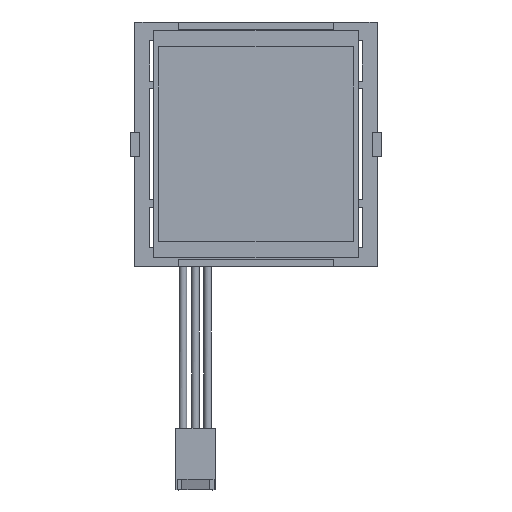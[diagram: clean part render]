
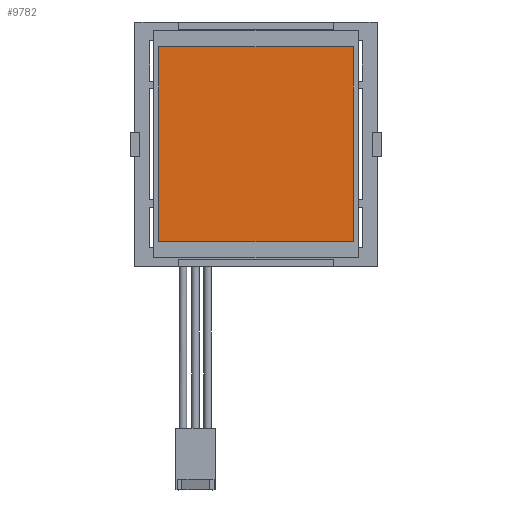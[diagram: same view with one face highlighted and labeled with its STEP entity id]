
A CAD part, front view. The second image highlights one B-rep face of the part: STEP entity #9782.
In plain terms, the highlighted planar face has unit normal (0, -1, 0).
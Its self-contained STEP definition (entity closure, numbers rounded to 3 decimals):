
#835 = CARTESIAN_POINT ( 'NONE',  ( -20., -0.127, -20. ) ) ;
#836 = CARTESIAN_POINT ( 'NONE',  ( -20., -0.127, -20. ) ) ;
#1374 = DIRECTION ( 'NONE',  ( 0., 0., -1. ) ) ;
#2063 = VERTEX_POINT ( 'NONE', #5641 ) ;
#3113 = VERTEX_POINT ( 'NONE', #21634 ) ;
#3775 = VERTEX_POINT ( 'NONE', #835 ) ;
#4136 = EDGE_CURVE ( 'NONE', #2063, #43015, #17223, .T. ) ;
#4886 = CARTESIAN_POINT ( 'NONE',  ( -20., -0.127, 20. ) ) ;
#5534 = CARTESIAN_POINT ( 'NONE',  ( -20., -0.127, 20. ) ) ;
#5641 = CARTESIAN_POINT ( 'NONE',  ( -20., -0.127, 20. ) ) ;
#9782 = ADVANCED_FACE ( 'NONE', ( #23736 ), #39285, .F. ) ;
#11076 = CARTESIAN_POINT ( 'NONE',  ( 20., -0.127, 20. ) ) ;
#11716 = EDGE_CURVE ( 'NONE', #3775, #2063, #45019, .T. ) ;
#12454 = LINE ( 'NONE', #836, #28187 ) ;
#13673 = EDGE_CURVE ( 'NONE', #43015, #3113, #17864, .T. ) ;
#14006 = CARTESIAN_POINT ( 'NONE',  ( 20., -0.127, -20. ) ) ;
#15802 = ORIENTED_EDGE ( 'NONE', *, *, #4136, .F. ) ;
#17223 = LINE ( 'NONE', #5534, #27146 ) ;
#17713 = DIRECTION ( 'NONE',  ( 0., 0., 1. ) ) ;
#17864 = LINE ( 'NONE', #14006, #39231 ) ;
#20856 = ORIENTED_EDGE ( 'NONE', *, *, #13673, .F. ) ;
#21313 = CARTESIAN_POINT ( 'NONE',  ( -20., -0.127, -20. ) ) ;
#21634 = CARTESIAN_POINT ( 'NONE',  ( 20., -0.127, -20. ) ) ;
#23507 = DIRECTION ( 'NONE',  ( 0., 1., 0. ) ) ;
#23736 = FACE_OUTER_BOUND ( 'NONE', #33525, .T. ) ;
#24235 = DIRECTION ( 'NONE',  ( 0., 0., 1. ) ) ;
#25659 = DIRECTION ( 'NONE',  ( 1., 0., 0. ) ) ;
#27146 = VECTOR ( 'NONE', #25659, 1000. ) ;
#28187 = VECTOR ( 'NONE', #34941, 1000. ) ;
#29317 = AXIS2_PLACEMENT_3D ( 'NONE', #4886, #23507, #24235 ) ;
#32364 = VECTOR ( 'NONE', #17713, 1000. ) ;
#33525 = EDGE_LOOP ( 'NONE', ( #41714, #41479, #20856, #15802 ) ) ;
#34941 = DIRECTION ( 'NONE',  ( -1., 0., 0. ) ) ;
#39231 = VECTOR ( 'NONE', #1374, 1000. ) ;
#39285 = PLANE ( 'NONE',  #29317 ) ;
#41479 = ORIENTED_EDGE ( 'NONE', *, *, #44069, .F. ) ;
#41714 = ORIENTED_EDGE ( 'NONE', *, *, #11716, .F. ) ;
#43015 = VERTEX_POINT ( 'NONE', #11076 ) ;
#44069 = EDGE_CURVE ( 'NONE', #3113, #3775, #12454, .T. ) ;
#45019 = LINE ( 'NONE', #21313, #32364 ) ;
